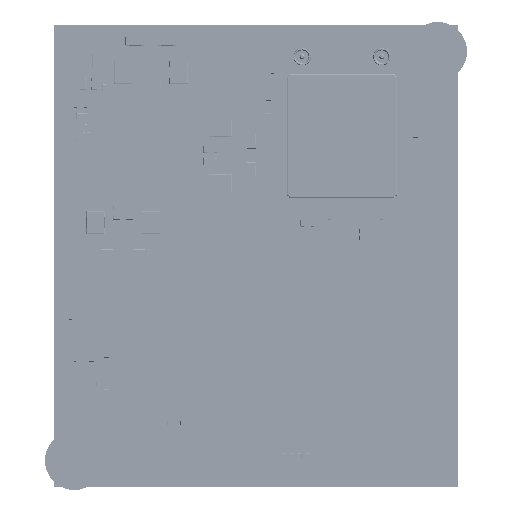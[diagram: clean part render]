
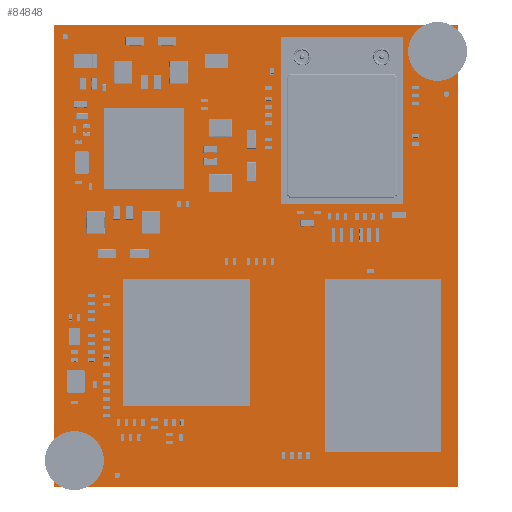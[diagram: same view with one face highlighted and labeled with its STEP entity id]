
A CAD part, top view. The second image highlights one B-rep face of the part: STEP entity #84848.
In plain terms, the highlighted planar face has unit normal (0, 0, 1).
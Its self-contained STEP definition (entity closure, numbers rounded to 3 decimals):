
#62553=FACE_OUTER_BOUND($,#66897,.F.);
#66897=EDGE_LOOP($,(#89492,#89493,#89494,#89495));
#72146=AXIS2_PLACEMENT_3D($,#181557,#154567,$);
#81596=PLANE($,#72146);
#84848=ADVANCED_FACE($,(#62553),#81596,.T.);
#89492=ORIENTED_EDGE($,*,*,#114234,.T.);
#89493=ORIENTED_EDGE($,*,*,#114235,.T.);
#89494=ORIENTED_EDGE($,*,*,#114236,.T.);
#89495=ORIENTED_EDGE($,*,*,#114237,.T.);
#114234=EDGE_CURVE($,#144336,#144337,#135473,.T.);
#114235=EDGE_CURVE($,#144337,#144338,#135474,.T.);
#114236=EDGE_CURVE($,#144338,#144339,#135475,.T.);
#114237=EDGE_CURVE($,#144339,#144336,#135476,.T.);
#126610=VECTOR($,#154570,40.);
#126611=VECTOR($,#154571,35.);
#126612=VECTOR($,#154572,40.);
#126613=VECTOR($,#154573,35.);
#135473=LINE($,#181556,#126610);
#135474=LINE($,#181557,#126611);
#135475=LINE($,#181558,#126612);
#135476=LINE($,#181559,#126613);
#144336=VERTEX_POINT($,#181556);
#144337=VERTEX_POINT($,#181557);
#144338=VERTEX_POINT($,#181558);
#144339=VERTEX_POINT($,#181559);
#154567=DIRECTION($,(0.,0.,1.));
#154570=DIRECTION($,(0.,1.,0.));
#154571=DIRECTION($,(1.,0.,0.));
#154572=DIRECTION($,(0.,-1.,0.));
#154573=DIRECTION($,(-1.,0.,0.));
#181556=CARTESIAN_POINT('',(0.,0.,0.));
#181557=CARTESIAN_POINT('',(0.,40.,0.));
#181558=CARTESIAN_POINT('',(35.,40.,0.));
#181559=CARTESIAN_POINT('',(35.,0.,0.));
